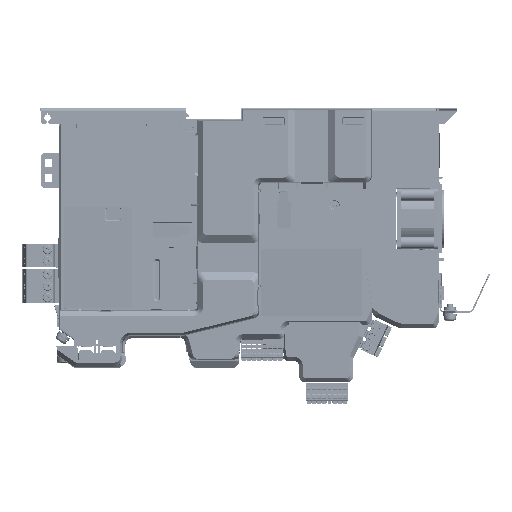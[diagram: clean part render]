
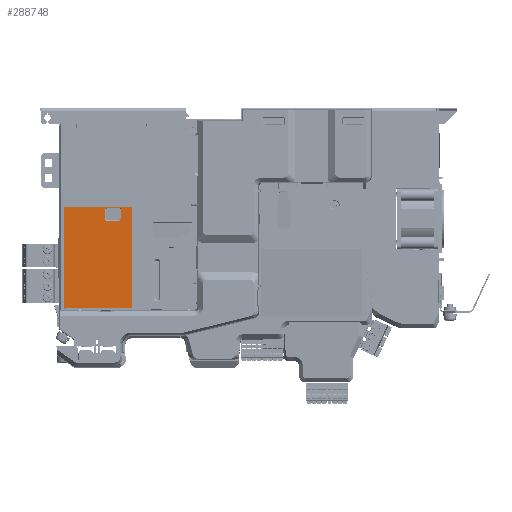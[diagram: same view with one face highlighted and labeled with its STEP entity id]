
A CAD part, left-side view. The second image highlights one B-rep face of the part: STEP entity #288748.
In plain terms, the highlighted planar face has unit normal (-0.997, 0.073, 0).
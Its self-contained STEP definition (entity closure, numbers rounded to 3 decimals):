
#279906=DIRECTION('',(0.,0.,-1.));
#279907=VECTOR('',#279906,67.78);
#279908=CARTESIAN_POINT('',(0.,122.617,-58.78));
#279909=LINE('',#279908,#279907);
#280326=DIRECTION('',(0.,0.,1.));
#280327=VECTOR('',#280326,23.631);
#280328=CARTESIAN_POINT('',(3.477,169.964,
-104.485));
#280329=LINE('',#280328,#280327);
#280330=DIRECTION('',(-0.073,-0.994,0.087));
#280331=VECTOR('',#280330,2.41);
#280332=CARTESIAN_POINT('',(3.477,169.964,
-80.855));
#280333=LINE('',#280332,#280331);
#280334=DIRECTION('',(0.,0.,1.));
#280335=VECTOR('',#280334,1.3);
#280336=CARTESIAN_POINT('',(3.301,167.57,-80.645));
#280337=LINE('',#280336,#280335);
#280338=DIRECTION('',(0.073,0.994,0.087));
#280339=VECTOR('',#280338,2.144);
#280340=CARTESIAN_POINT('',(3.301,167.57,-79.345));
#280341=LINE('',#280340,#280339);
#280342=DIRECTION('',(0.,0.,1.));
#280343=VECTOR('',#280342,20.185);
#280344=CARTESIAN_POINT('',(3.458,169.7,-79.158));
#280345=LINE('',#280344,#280343);
#280346=DIRECTION('',(-0.073,-0.993,0.09));
#280347=VECTOR('',#280346,2.144);
#280348=CARTESIAN_POINT('',(3.458,169.7,-58.973));
#280349=LINE('',#280348,#280347);
#280350=DIRECTION('',(0.073,0.993,0.09));
#280351=VECTOR('',#280350,2.144);
#280352=CARTESIAN_POINT('',(3.301,167.57,-126.56));
#280353=LINE('',#280352,#280351);
#280354=DIRECTION('',(0.,0.,1.));
#280355=VECTOR('',#280354,20.185);
#280356=CARTESIAN_POINT('',(3.458,169.7,-126.367));
#280357=LINE('',#280356,#280355);
#280358=DIRECTION('',(-0.073,-0.994,0.087));
#280359=VECTOR('',#280358,2.144);
#280360=CARTESIAN_POINT('',(3.458,169.7,-106.182));
#280361=LINE('',#280360,#280359);
#280362=DIRECTION('',(0.,0.,1.));
#280363=VECTOR('',#280362,1.3);
#280364=CARTESIAN_POINT('',(3.301,167.57,-105.995));
#280365=LINE('',#280364,#280363);
#280366=DIRECTION('',(0.073,0.994,0.087));
#280367=VECTOR('',#280366,2.41);
#280368=CARTESIAN_POINT('',(3.301,167.57,-104.695));
#280369=LINE('',#280368,#280367);
#280370=CARTESIAN_POINT('',(0.627,131.153,-61.03));
#280371=DIRECTION('',(0.997,-0.073,0.));
#280372=DIRECTION('',(0.,0.,1.));
#280373=AXIS2_PLACEMENT_3D('',#280370,#280371,#280372);
#280375=DIRECTION('',(-0.073,-0.997,
0.));
#280376=VECTOR('',#280375,7.5);
#280377=CARTESIAN_POINT('',(1.176,138.633,
-59.28));
#280378=LINE('',#280377,#280376);
#280379=CARTESIAN_POINT('',(1.176,138.633,-61.03));
#280380=DIRECTION('',(0.997,-0.073,0.));
#280381=DIRECTION('',(0.073,0.997,0.));
#280382=AXIS2_PLACEMENT_3D('',#280379,#280380,#280381);
#280384=DIRECTION('',(0.,0.,1.));
#280385=VECTOR('',#280384,5.5);
#280386=CARTESIAN_POINT('',(1.304,140.379,
-66.53));
#280387=LINE('',#280386,#280385);
#280388=CARTESIAN_POINT('',(1.176,138.633,-66.53));
#280389=DIRECTION('',(0.997,-0.073,0.));
#280390=DIRECTION('',(0.,0.,-1.));
#280391=AXIS2_PLACEMENT_3D('',#280388,#280389,#280390);
#280393=DIRECTION('',(0.073,0.997,0.));
#280394=VECTOR('',#280393,7.5);
#280395=CARTESIAN_POINT('',(0.627,131.153,
-68.28));
#280396=LINE('',#280395,#280394);
#280397=CARTESIAN_POINT('',(0.627,131.153,-66.53));
#280398=DIRECTION('',(0.997,-0.073,0.));
#280399=DIRECTION('',(-0.073,-0.997,
0.));
#280400=AXIS2_PLACEMENT_3D('',#280397,#280398,#280399);
#280402=DIRECTION('',(0.,0.,-1.));
#280403=VECTOR('',#280402,5.5);
#280404=CARTESIAN_POINT('',(0.499,129.408,
-61.03));
#280405=LINE('',#280404,#280403);
#280414=DIRECTION('',(0.073,0.997,0.));
#280415=VECTOR('',#280414,45.074);
#280416=CARTESIAN_POINT('',(0.,122.617,-58.78));
#280417=LINE('',#280416,#280415);
#280426=DIRECTION('',(-0.073,-0.997,0.));
#280427=VECTOR('',#280426,45.074);
#280428=CARTESIAN_POINT('',(3.301,167.57,-126.56));
#280429=LINE('',#280428,#280427);
#286478=CARTESIAN_POINT('',(0.,122.617,-58.78));
#286479=CARTESIAN_POINT('',(0.,122.617,-126.56));
#286480=VERTEX_POINT('',#286478);
#286481=VERTEX_POINT('',#286479);
#287257=CARTESIAN_POINT('',(3.477,169.964,
-104.485));
#287258=CARTESIAN_POINT('',(3.477,169.964,
-80.855));
#287259=VERTEX_POINT('',#287257);
#287260=VERTEX_POINT('',#287258);
#288105=CARTESIAN_POINT('',(3.301,167.57,-126.56));
#288106=VERTEX_POINT('',#288105);
#288107=CARTESIAN_POINT('',(3.458,169.7,-126.367));
#288108=VERTEX_POINT('',#288107);
#288109=CARTESIAN_POINT('',(3.301,167.57,-58.78));
#288111=VERTEX_POINT('',#288109);
#288113=CARTESIAN_POINT('',(3.458,169.7,-58.973));
#288114=VERTEX_POINT('',#288113);
#288117=CARTESIAN_POINT('',(3.458,169.7,-106.182));
#288118=VERTEX_POINT('',#288117);
#288119=CARTESIAN_POINT('',(3.458,169.7,-79.158));
#288120=VERTEX_POINT('',#288119);
#288127=CARTESIAN_POINT('',(3.301,167.57,-105.995));
#288128=CARTESIAN_POINT('',(3.301,167.57,-104.695));
#288129=VERTEX_POINT('',#288127);
#288130=VERTEX_POINT('',#288128);
#288131=CARTESIAN_POINT('',(3.301,167.57,-80.645));
#288132=CARTESIAN_POINT('',(3.301,167.57,-79.345));
#288133=VERTEX_POINT('',#288131);
#288134=VERTEX_POINT('',#288132);
#288274=CARTESIAN_POINT('',(0.627,131.153,-59.28));
#288275=CARTESIAN_POINT('',(0.499,129.408,-61.03));
#288276=VERTEX_POINT('',#288274);
#288277=VERTEX_POINT('',#288275);
#288282=CARTESIAN_POINT('',(0.499,129.408,
-66.53));
#288283=VERTEX_POINT('',#288282);
#288286=CARTESIAN_POINT('',(0.627,131.153,-68.28));
#288287=VERTEX_POINT('',#288286);
#288290=CARTESIAN_POINT('',(1.176,138.633,
-68.28));
#288291=VERTEX_POINT('',#288290);
#288294=CARTESIAN_POINT('',(1.304,140.379,-66.53));
#288295=VERTEX_POINT('',#288294);
#288298=CARTESIAN_POINT('',(1.304,140.379,
-61.03));
#288299=VERTEX_POINT('',#288298);
#288302=CARTESIAN_POINT('',(1.176,138.633,-59.28));
#288303=VERTEX_POINT('',#288302);
#288696=CARTESIAN_POINT('',(3.301,167.57,-126.56));
#288697=DIRECTION('',(0.997,-0.073,0.));
#288698=DIRECTION('',(-0.073,-0.997,0.));
#288699=AXIS2_PLACEMENT_3D('',#288696,#288697,#288698);
#288700=PLANE('',#288699);
#288702=ORIENTED_EDGE('',*,*,#288701,.T.);
#288704=ORIENTED_EDGE('',*,*,#288703,.T.);
#288706=ORIENTED_EDGE('',*,*,#288705,.T.);
#288708=ORIENTED_EDGE('',*,*,#288707,.T.);
#288710=ORIENTED_EDGE('',*,*,#288709,.T.);
#288712=ORIENTED_EDGE('',*,*,#288711,.T.);
#288714=ORIENTED_EDGE('',*,*,#288713,.F.);
#288715=ORIENTED_EDGE('',*,*,#288502,.T.);
#288717=ORIENTED_EDGE('',*,*,#288716,.F.);
#288719=ORIENTED_EDGE('',*,*,#288718,.T.);
#288721=ORIENTED_EDGE('',*,*,#288720,.T.);
#288723=ORIENTED_EDGE('',*,*,#288722,.T.);
#288725=ORIENTED_EDGE('',*,*,#288724,.T.);
#288727=ORIENTED_EDGE('',*,*,#288726,.T.);
#288728=EDGE_LOOP('',(#288702,#288704,#288706,#288708,#288710,#288712,#288714,
#288715,#288717,#288719,#288721,#288723,#288725,#288727));
#288729=FACE_OUTER_BOUND('',#288728,.F.);
#288731=ORIENTED_EDGE('',*,*,#288730,.F.);
#288733=ORIENTED_EDGE('',*,*,#288732,.F.);
#288735=ORIENTED_EDGE('',*,*,#288734,.F.);
#288737=ORIENTED_EDGE('',*,*,#288736,.F.);
#288739=ORIENTED_EDGE('',*,*,#288738,.F.);
#288741=ORIENTED_EDGE('',*,*,#288740,.F.);
#288743=ORIENTED_EDGE('',*,*,#288742,.F.);
#288745=ORIENTED_EDGE('',*,*,#288744,.F.);
#288746=EDGE_LOOP('',(#288731,#288733,#288735,#288737,#288739,#288741,#288743,
#288745));
#288747=FACE_BOUND('',#288746,.F.);
#288748=ADVANCED_FACE('',(#288729,#288747),#288700,.F.);
#280374=CIRCLE('',#280373,1.75);
#280383=CIRCLE('',#280382,1.75);
#280392=CIRCLE('',#280391,1.75);
#280401=CIRCLE('',#280400,1.75);
#288502=EDGE_CURVE('',#286480,#286481,#279909,.T.);
#288701=EDGE_CURVE('',#287259,#287260,#280329,.T.);
#288703=EDGE_CURVE('',#287260,#288133,#280333,.T.);
#288705=EDGE_CURVE('',#288133,#288134,#280337,.T.);
#288707=EDGE_CURVE('',#288134,#288120,#280341,.T.);
#288709=EDGE_CURVE('',#288120,#288114,#280345,.T.);
#288711=EDGE_CURVE('',#288114,#288111,#280349,.T.);
#288713=EDGE_CURVE('',#286480,#288111,#280417,.T.);
#288716=EDGE_CURVE('',#288106,#286481,#280429,.T.);
#288718=EDGE_CURVE('',#288106,#288108,#280353,.T.);
#288720=EDGE_CURVE('',#288108,#288118,#280357,.T.);
#288722=EDGE_CURVE('',#288118,#288129,#280361,.T.);
#288724=EDGE_CURVE('',#288129,#288130,#280365,.T.);
#288726=EDGE_CURVE('',#288130,#287259,#280369,.T.);
#288730=EDGE_CURVE('',#288276,#288277,#280374,.T.);
#288732=EDGE_CURVE('',#288303,#288276,#280378,.T.);
#288734=EDGE_CURVE('',#288299,#288303,#280383,.T.);
#288736=EDGE_CURVE('',#288295,#288299,#280387,.T.);
#288738=EDGE_CURVE('',#288291,#288295,#280392,.T.);
#288740=EDGE_CURVE('',#288287,#288291,#280396,.T.);
#288742=EDGE_CURVE('',#288283,#288287,#280401,.T.);
#288744=EDGE_CURVE('',#288277,#288283,#280405,.T.);
